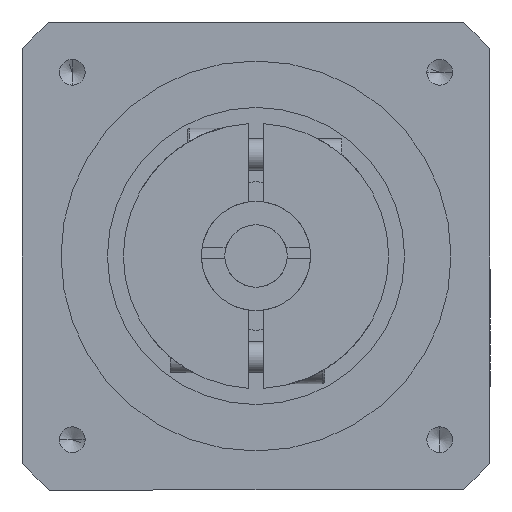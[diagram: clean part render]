
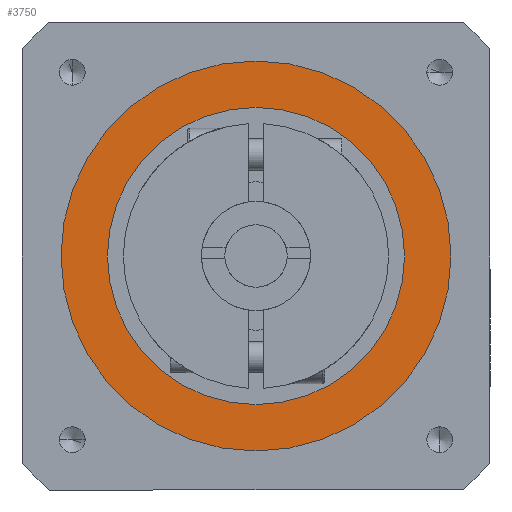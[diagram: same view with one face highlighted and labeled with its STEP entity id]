
A CAD part, front view. The second image highlights one B-rep face of the part: STEP entity #3750.
In plain terms, the highlighted planar face has unit normal (0, -1, 0).
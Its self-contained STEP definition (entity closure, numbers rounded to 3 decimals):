
#29 = DIRECTION ( 'NONE',  ( 0., 0., -1. ) ) ;
#278 = CARTESIAN_POINT ( 'NONE',  ( 0., -91., 19.05 ) ) ;
#330 = CARTESIAN_POINT ( 'NONE',  ( 0., -91., 0. ) ) ;
#429 = EDGE_CURVE ( 'NONE', #5858, #3693, #5666, .T. ) ;
#904 = CARTESIAN_POINT ( 'NONE',  ( 0., -91., -25. ) ) ;
#947 = CARTESIAN_POINT ( 'NONE',  ( 0., -91., 0. ) ) ;
#1739 = AXIS2_PLACEMENT_3D ( 'NONE', #947, #2847, #29 ) ;
#1831 = CARTESIAN_POINT ( 'NONE',  ( 0., -91., 0. ) ) ;
#1888 = EDGE_CURVE ( 'NONE', #4202, #2782, #3249, .T. ) ;
#1970 = DIRECTION ( 'NONE',  ( 0., -1., 0. ) ) ;
#2231 = DIRECTION ( 'NONE',  ( 0., -1., 0. ) ) ;
#2309 = DIRECTION ( 'NONE',  ( 0., 0., -1. ) ) ;
#2439 = ORIENTED_EDGE ( 'NONE', *, *, #1888, .F. ) ;
#2690 = CIRCLE ( 'NONE', #3003, 25. ) ;
#2715 = DIRECTION ( 'NONE',  ( 0., 0., -1. ) ) ;
#2782 = VERTEX_POINT ( 'NONE', #278 ) ;
#2847 = DIRECTION ( 'NONE',  ( 0., -1., 0. ) ) ;
#3003 = AXIS2_PLACEMENT_3D ( 'NONE', #4786, #1970, #5251 ) ;
#3165 = DIRECTION ( 'NONE',  ( 0., -1., 0. ) ) ;
#3249 = CIRCLE ( 'NONE', #5511, 19.05 ) ;
#3285 = FACE_BOUND ( 'NONE', #4504, .T. ) ;
#3693 = VERTEX_POINT ( 'NONE', #904 ) ;
#3750 = ADVANCED_FACE ( 'NONE', ( #4370, #3285 ), #5657, .T. ) ;
#3851 = EDGE_CURVE ( 'NONE', #3693, #5858, #2690, .T. ) ;
#4052 = AXIS2_PLACEMENT_3D ( 'NONE', #330, #3165, #5961 ) ;
#4202 = VERTEX_POINT ( 'NONE', #5551 ) ;
#4355 = ORIENTED_EDGE ( 'NONE', *, *, #3851, .T. ) ;
#4370 = FACE_OUTER_BOUND ( 'NONE', #5900, .T. ) ;
#4504 = EDGE_LOOP ( 'NONE', ( #4635, #2439 ) ) ;
#4635 = ORIENTED_EDGE ( 'NONE', *, *, #4712, .F. ) ;
#4712 = EDGE_CURVE ( 'NONE', #2782, #4202, #5496, .T. ) ;
#4786 = CARTESIAN_POINT ( 'NONE',  ( 0., -91., 0. ) ) ;
#5046 = CARTESIAN_POINT ( 'NONE',  ( 0., -91., 0. ) ) ;
#5116 = DIRECTION ( 'NONE',  ( 0., -1., 0. ) ) ;
#5251 = DIRECTION ( 'NONE',  ( 0., 0., -1. ) ) ;
#5254 = AXIS2_PLACEMENT_3D ( 'NONE', #1831, #5116, #2309 ) ;
#5496 = CIRCLE ( 'NONE', #5254, 19.05 ) ;
#5511 = AXIS2_PLACEMENT_3D ( 'NONE', #5046, #2231, #2715 ) ;
#5551 = CARTESIAN_POINT ( 'NONE',  ( 0., -91., -19.05 ) ) ;
#5657 = PLANE ( 'NONE',  #1739 ) ;
#5666 = CIRCLE ( 'NONE', #4052, 25. ) ;
#5858 = VERTEX_POINT ( 'NONE', #6032 ) ;
#5860 = ORIENTED_EDGE ( 'NONE', *, *, #429, .T. ) ;
#5900 = EDGE_LOOP ( 'NONE', ( #5860, #4355 ) ) ;
#5961 = DIRECTION ( 'NONE',  ( 0., 0., -1. ) ) ;
#6032 = CARTESIAN_POINT ( 'NONE',  ( 0., -91., 25. ) ) ;
